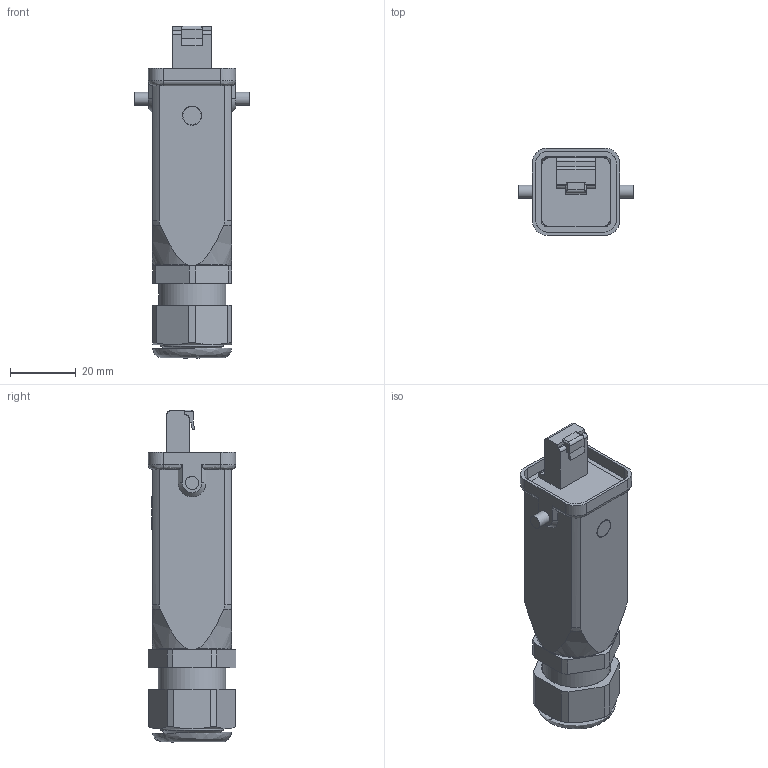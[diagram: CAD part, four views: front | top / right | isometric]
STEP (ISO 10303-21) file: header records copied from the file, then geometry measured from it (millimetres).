
FILE_DESCRIPTION((''),'2;1');
FILE_NAME('/users3/sdrc4/09_45_IP67_plastic_data_3A_plug_M20.stp', '2006-01-20T17:26:54',('User'),('SDRC'),'I-DEAS Master Series 9','UNIX', 'Yes');
FILE_SCHEMA(('AUTOMOTIVE_DESIGN { 1 0 10303 214 1 1 1 1 }'));
Length unit declared in the file: millimetre
Products named in the file (1): 09451251100
Bounding box: 35.1 x 26.63 x 100.84 mm (x, y, z)
Surface area: 18422.7 mm2 (no closed solid volume)
Topology: 0 solids, 4 shells, 308 faces, 842 edges, 552 vertices
Faces by surface type: bspline 308
Entity records: 10190 total; most frequent: CARTESIAN_POINT 5299, ORIENTED_EDGE 1654, EDGE_CURVE 830, VERTEX_POINT 552, EDGE_LOOP 334, QUASI_UNIFORM_CURVE 329, FACE_OUTER_BOUND 308, ADVANCED_FACE 308
